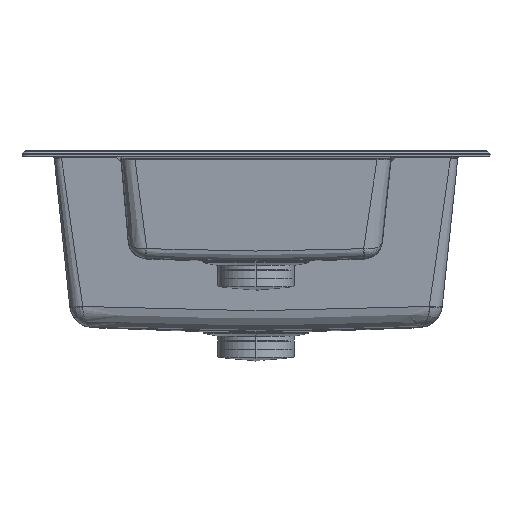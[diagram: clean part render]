
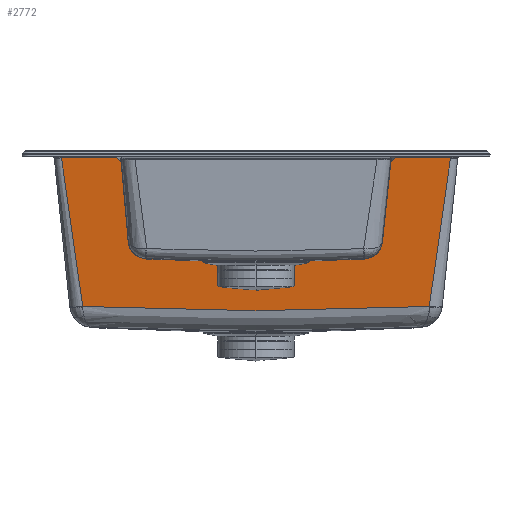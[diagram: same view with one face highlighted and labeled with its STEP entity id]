
A CAD part, left-side view. The second image highlights one B-rep face of the part: STEP entity #2772.
In plain terms, the highlighted planar face has unit normal (-0.995, 0, -0.104).
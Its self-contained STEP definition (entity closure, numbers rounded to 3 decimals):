
#1516=PLANE('',#14626);
#2772=ADVANCED_FACE('',(#3431),#1516,.T.);
#3431=FACE_OUTER_BOUND('',#4258,.T.);
#4258=EDGE_LOOP('',(#7124,#7125,#7126,#7127,#7128,#7129,#7130,#7131,#7132,
#7133,#7134,#7135,#7136,#7137));
#7124=ORIENTED_EDGE('',*,*,#9622,.T.);
#7125=ORIENTED_EDGE('',*,*,#9623,.T.);
#7126=ORIENTED_EDGE('',*,*,#9624,.T.);
#7127=ORIENTED_EDGE('',*,*,#9625,.T.);
#7128=ORIENTED_EDGE('',*,*,#9626,.T.);
#7129=ORIENTED_EDGE('',*,*,#9627,.T.);
#7130=ORIENTED_EDGE('',*,*,#9628,.T.);
#7131=ORIENTED_EDGE('',*,*,#9629,.T.);
#7132=ORIENTED_EDGE('',*,*,#9630,.T.);
#7133=ORIENTED_EDGE('',*,*,#9631,.T.);
#7134=ORIENTED_EDGE('',*,*,#9632,.T.);
#7135=ORIENTED_EDGE('',*,*,#9633,.T.);
#7136=ORIENTED_EDGE('',*,*,#9634,.T.);
#7137=ORIENTED_EDGE('',*,*,#9635,.T.);
#9622=EDGE_CURVE('',#13376,#13377,#11812,.T.);
#9623=EDGE_CURVE('',#13377,#13378,#11813,.T.);
#9624=EDGE_CURVE('',#13378,#13379,#11814,.T.);
#9625=EDGE_CURVE('',#13379,#13380,#11815,.T.);
#9626=EDGE_CURVE('',#13380,#13381,#11816,.T.);
#9627=EDGE_CURVE('',#13381,#13382,#11817,.T.);
#9628=EDGE_CURVE('',#13382,#13383,#11818,.T.);
#9629=EDGE_CURVE('',#13383,#13384,#11819,.T.);
#9630=EDGE_CURVE('',#13384,#13385,#11820,.T.);
#9631=EDGE_CURVE('',#13385,#13386,#11821,.T.);
#9632=EDGE_CURVE('',#13386,#13387,#11822,.T.);
#9633=EDGE_CURVE('',#13387,#13388,#11823,.T.);
#9634=EDGE_CURVE('',#13388,#13389,#11824,.T.);
#9635=EDGE_CURVE('',#13389,#13376,#11825,.T.);
#11812=B_SPLINE_CURVE_WITH_KNOTS('',1,(#95563,#95564),.UNSPECIFIED.,.F.,
 .F.,(2,2),(0.,1.),.UNSPECIFIED.);
#11813=B_SPLINE_CURVE_WITH_KNOTS('',1,(#95565,#95566),.UNSPECIFIED.,.F.,
 .F.,(2,2),(0.,1.),.UNSPECIFIED.);
#11814=B_SPLINE_CURVE_WITH_KNOTS('',3,(#95567,#95568,#95569,#95570,#95571,
#95572,#95573,#95574,#95575,#95576,#95577,#95578,#95579,#95580,#95581),
 .UNSPECIFIED.,.F.,.F.,(4,1,1,1,1,1,1,1,1,1,1,1,4),(0.,0.121,
0.247,0.31,0.374,0.437,0.5,
0.563,0.626,0.69,0.753,0.879,
1.),.UNSPECIFIED.);
#11815=B_SPLINE_CURVE_WITH_KNOTS('',1,(#95582,#95583),.UNSPECIFIED.,.F.,
 .F.,(2,2),(0.,1.),.UNSPECIFIED.);
#11816=B_SPLINE_CURVE_WITH_KNOTS('',1,(#95584,#95585),.UNSPECIFIED.,.F.,
 .F.,(2,2),(0.,1.),.UNSPECIFIED.);
#11817=B_SPLINE_CURVE_WITH_KNOTS('',1,(#95586,#95587),.UNSPECIFIED.,.F.,
 .F.,(2,2),(0.,1.),.UNSPECIFIED.);
#11818=B_SPLINE_CURVE_WITH_KNOTS('',1,(#95588,#95589),.UNSPECIFIED.,.F.,
 .F.,(2,2),(0.,1.),.UNSPECIFIED.);
#11819=B_SPLINE_CURVE_WITH_KNOTS('',1,(#95590,#95591),.UNSPECIFIED.,.F.,
 .F.,(2,2),(0.,1.),.UNSPECIFIED.);
#11820=B_SPLINE_CURVE_WITH_KNOTS('',3,(#95592,#95593,#95594,#95595,#95596,
#95597,#95598),.UNSPECIFIED.,.F.,.F.,(4,1,1,1,4),(0.,0.25,0.5,0.75,1.),
 .UNSPECIFIED.);
#11821=B_SPLINE_CURVE_WITH_KNOTS('',1,(#95599,#95600),.UNSPECIFIED.,.F.,
 .F.,(2,2),(0.,1.),.UNSPECIFIED.);
#11822=B_SPLINE_CURVE_WITH_KNOTS('',3,(#95601,#95602,#95603,#95604,#95605,
#95606,#95607),.UNSPECIFIED.,.F.,.F.,(4,1,1,1,4),(0.,0.25,0.5,0.75,1.),
 .UNSPECIFIED.);
#11823=B_SPLINE_CURVE_WITH_KNOTS('',1,(#95608,#95609),.UNSPECIFIED.,.F.,
 .F.,(2,2),(0.,1.),.UNSPECIFIED.);
#11824=B_SPLINE_CURVE_WITH_KNOTS('',1,(#95610,#95611),.UNSPECIFIED.,.F.,
 .F.,(2,2),(0.,1.),.UNSPECIFIED.);
#11825=B_SPLINE_CURVE_WITH_KNOTS('',1,(#95612,#95613),.UNSPECIFIED.,.F.,
 .F.,(2,2),(0.,1.),.UNSPECIFIED.);
#13376=VERTEX_POINT('',#95549);
#13377=VERTEX_POINT('',#95550);
#13378=VERTEX_POINT('',#95551);
#13379=VERTEX_POINT('',#95552);
#13380=VERTEX_POINT('',#95553);
#13381=VERTEX_POINT('',#95554);
#13382=VERTEX_POINT('',#95555);
#13383=VERTEX_POINT('',#95556);
#13384=VERTEX_POINT('',#95557);
#13385=VERTEX_POINT('',#95558);
#13386=VERTEX_POINT('',#95559);
#13387=VERTEX_POINT('',#95560);
#13388=VERTEX_POINT('',#95561);
#13389=VERTEX_POINT('',#95562);
#14626=AXIS2_PLACEMENT_3D('',#95548,#14701,$);
#14701=DIRECTION('',(-0.995,0.,-0.105));
#95548=CARTESIAN_POINT('',(93.512,-281.54,-178.375));
#95549=CARTESIAN_POINT('',(75.574,-8.499,-7.704));
#95550=CARTESIAN_POINT('',(75.574,152.913,-7.704));
#95551=CARTESIAN_POINT('',(92.583,129.831,-169.538));
#95552=CARTESIAN_POINT('',(92.583,-247.831,-169.538));
#95553=CARTESIAN_POINT('',(75.574,-270.913,-7.704));
#95554=CARTESIAN_POINT('',(75.574,-109.501,-7.704));
#95555=CARTESIAN_POINT('',(77.812,-108.012,-29.));
#95556=CARTESIAN_POINT('',(77.812,-103.112,-29.));
#95557=CARTESIAN_POINT('',(78.037,-102.962,-31.14));
#95558=CARTESIAN_POINT('',(78.233,-100.967,-33.));
#95559=CARTESIAN_POINT('',(78.233,-17.033,-33.));
#95560=CARTESIAN_POINT('',(78.037,-15.038,-31.14));
#95561=CARTESIAN_POINT('',(77.812,-14.888,-29.));
#95562=CARTESIAN_POINT('',(77.812,-9.988,-29.));
#95563=CARTESIAN_POINT('',(75.574,-8.499,-7.704));
#95564=CARTESIAN_POINT('',(75.574,152.913,-7.704));
#95565=CARTESIAN_POINT('',(75.574,152.913,-7.704));
#95566=CARTESIAN_POINT('',(92.583,129.831,-169.538));
#95567=CARTESIAN_POINT('',(92.583,129.831,-169.538));
#95568=CARTESIAN_POINT('',(92.636,114.665,-170.035));
#95569=CARTESIAN_POINT('',(92.741,83.577,-171.042));
#95570=CARTESIAN_POINT('',(92.867,44.526,-172.232));
#95571=CARTESIAN_POINT('',(92.957,12.678,-173.092));
#95572=CARTESIAN_POINT('',(93.015,-11.21,-173.642));
#95573=CARTESIAN_POINT('',(93.056,-35.101,-174.034));
#95574=CARTESIAN_POINT('',(93.071,-59.001,-174.182));
#95575=CARTESIAN_POINT('',(93.056,-82.9,-174.034));
#95576=CARTESIAN_POINT('',(93.015,-106.791,-173.642));
#95577=CARTESIAN_POINT('',(92.957,-130.679,-173.092));
#95578=CARTESIAN_POINT('',(92.867,-162.526,-172.232));
#95579=CARTESIAN_POINT('',(92.741,-201.577,-171.042));
#95580=CARTESIAN_POINT('',(92.636,-232.665,-170.035));
#95581=CARTESIAN_POINT('',(92.583,-247.831,-169.538));
#95582=CARTESIAN_POINT('',(92.583,-247.831,-169.538));
#95583=CARTESIAN_POINT('',(75.574,-270.913,-7.704));
#95584=CARTESIAN_POINT('',(75.574,-270.913,-7.704));
#95585=CARTESIAN_POINT('',(75.574,-109.501,-7.704));
#95586=CARTESIAN_POINT('',(75.574,-109.501,-7.704));
#95587=CARTESIAN_POINT('',(77.812,-108.012,-29.));
#95588=CARTESIAN_POINT('',(77.812,-108.012,-29.));
#95589=CARTESIAN_POINT('',(77.812,-103.112,-29.));
#95590=CARTESIAN_POINT('',(77.812,-103.112,-29.));
#95591=CARTESIAN_POINT('',(78.037,-102.962,-31.14));
#95592=CARTESIAN_POINT('',(78.037,-102.962,-31.14));
#95593=CARTESIAN_POINT('',(78.07,-102.941,-31.449));
#95594=CARTESIAN_POINT('',(78.121,-102.778,-31.94));
#95595=CARTESIAN_POINT('',(78.179,-102.359,-32.49));
#95596=CARTESIAN_POINT('',(78.219,-101.781,-32.871));
#95597=CARTESIAN_POINT('',(78.233,-101.279,-33.));
#95598=CARTESIAN_POINT('',(78.233,-100.967,-33.));
#95599=CARTESIAN_POINT('',(78.233,-100.967,-33.));
#95600=CARTESIAN_POINT('',(78.233,-17.033,-33.));
#95601=CARTESIAN_POINT('',(78.233,-17.033,-33.));
#95602=CARTESIAN_POINT('',(78.233,-16.721,-33.));
#95603=CARTESIAN_POINT('',(78.219,-16.219,-32.871));
#95604=CARTESIAN_POINT('',(78.179,-15.641,-32.49));
#95605=CARTESIAN_POINT('',(78.121,-15.222,-31.94));
#95606=CARTESIAN_POINT('',(78.07,-15.059,-31.449));
#95607=CARTESIAN_POINT('',(78.037,-15.038,-31.14));
#95608=CARTESIAN_POINT('',(78.037,-15.038,-31.14));
#95609=CARTESIAN_POINT('',(77.812,-14.888,-29.));
#95610=CARTESIAN_POINT('',(77.812,-14.888,-29.));
#95611=CARTESIAN_POINT('',(77.812,-9.988,-29.));
#95612=CARTESIAN_POINT('',(77.812,-9.988,-29.));
#95613=CARTESIAN_POINT('',(75.574,-8.499,-7.704));
